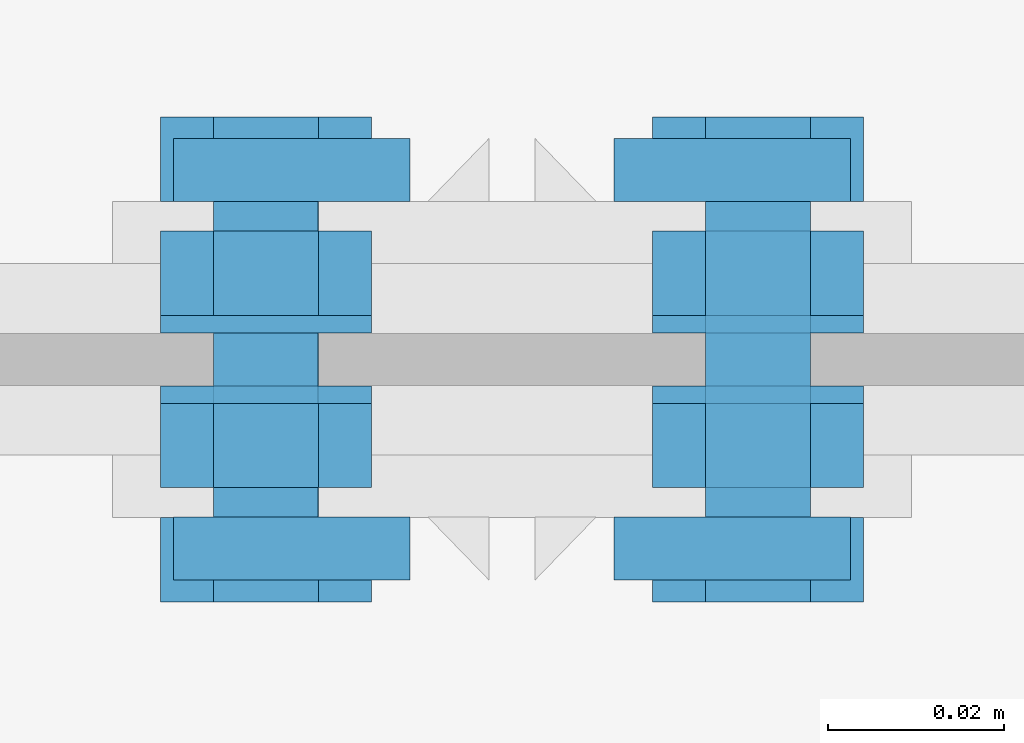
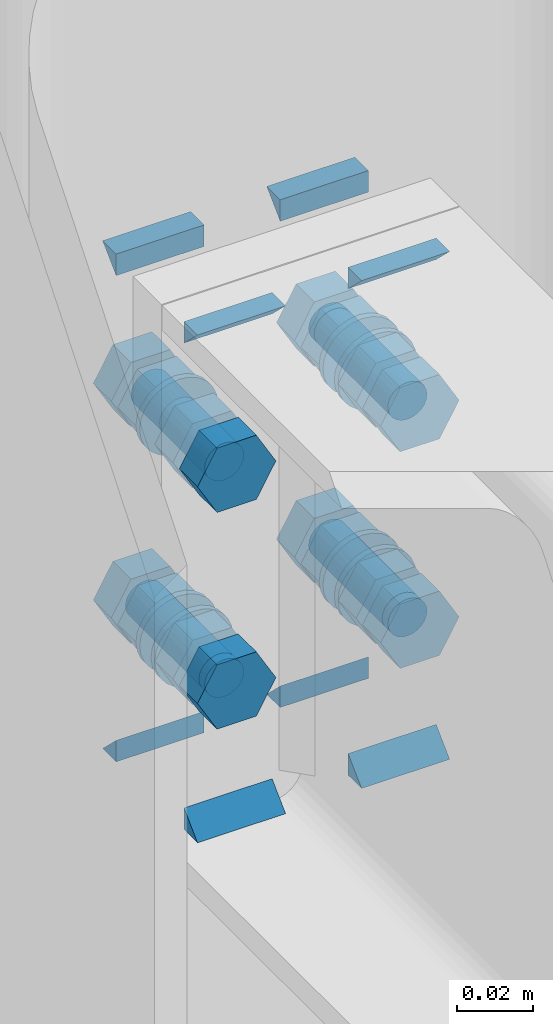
# One storey, part 119 of 251: 31 mechanical fasteners, 16 fasteners.
"""IFC4 building model written with IfcOpenShell, lengths in metres."""

from ifc_helpers import new_model, si_unit, frame, origin_with_axes, place, context, project, spatial, polyline, outline, extrude, type_object, element, save


model = new_model("IFC4")

# Units and contexts
model_context = context("Model", 3, precision=1e-05, world=origin_with_axes())
ifc_project = project(units=[si_unit("LENGTHUNIT", "METRE"), si_unit("AREAUNIT", "SQUARE_METRE"), si_unit("VOLUMEUNIT", "CUBIC_METRE"), si_unit("MASSUNIT", "GRAM", prefix="KILO"), si_unit("TIMEUNIT", "SECOND"), si_unit("PLANEANGLEUNIT", "RADIAN"), si_unit("SOLIDANGLEUNIT", "STERADIAN"), si_unit("THERMODYNAMICTEMPERATUREUNIT", "DEGREE_CELSIUS")], contexts=[model_context])

# Site, building, storey
placement_1 = place(None, origin_with_axes())
site = spatial("IfcSite", under=ifc_project, at=placement_1, Name="Italia", CompositionType="ELEMENT")
building = spatial("IfcBuilding", under=site, at=placement_1, Name="Deposito", CompositionType="ELEMENT")
storey = spatial("IfcBuildingStorey", under=building, at=placement_1, Name="Storey 0", CompositionType="ELEMENT", Elevation=0.0)

# Fasteners
fastener_type_1 = type_object("IfcFastenerType", Name="Collegamento -071_-070", PredefinedType="WELD")
placement_2 = place(placement_1, origin_with_axes())
fastener_1_placement = place(placement_2, origin_with_axes())
element("IfcFastener", 1, at=fastener_1_placement, inside=storey, type_object=fastener_type_1, Name="Collegamento -071_-070", context=model_context, shape_type="SweptSolid", body=[
    extrude(outline(polyline([(0.0, 0.0), (-0.00717354, 0.00695801), (0.0, 0.00695801), (0.0, 0.0)])), frame((6.01145, 9.98205, 6.89527), z_axis=(1.0, 0.0, 0.0), x_axis=(0.0, 1.0, 0.0)), (0.0, 0.0, 1.0), 0.0269499),
])
fastener_type_2 = type_object("IfcFastenerType", Name="Collegamento -071_-070", PredefinedType="WELD")
fastener_2_placement = place(placement_2, origin_with_axes())
element("IfcFastener", 2, at=fastener_2_placement, inside=storey, type_object=fastener_type_2, Name="Collegamento -071_-070", context=model_context, shape_type="SweptSolid", body=[
    extrude(outline(polyline([(0.0, 0.0), (0.00717354, -0.00695801), (0.0, -0.00695801), (0.0, 0.0)])), frame((6.0384, 9.98205, 6.74509), z_axis=(-1.0, 0.0, 0.0), x_axis=(0.0, -1.0, 0.0)), (0.0, 0.0, 1.0), 0.0269499),
])
fastener_type_3 = type_object("IfcFastenerType", Name="Collegamento -071_-070", PredefinedType="WELD")
fastener_3_placement = place(placement_2, origin_with_axes())
element("IfcFastener", 3, at=fastener_3_placement, inside=storey, type_object=fastener_type_3, Name="Collegamento -071_-070", context=model_context, shape_type="SweptSolid", body=[
    extrude(outline(polyline([(0.0, 0.0), (0.00717354, -0.00695801), (0.0, -0.00695801), (0.0, 0.0)])), frame((6.08855, 9.98205, 6.74509), z_axis=(-1.0, 0.0, 0.0), x_axis=(0.0, -1.0, 0.0)), (0.0, 0.0, 1.0), 0.0269499),
])
fastener_type_4 = type_object("IfcFastenerType", Name="Collegamento -071_-070", PredefinedType="WELD")
fastener_4_placement = place(placement_2, origin_with_axes())
element("IfcFastener", 4, at=fastener_4_placement, inside=storey, type_object=fastener_type_4, Name="Collegamento -071_-070", context=model_context, shape_type="SweptSolid", body=[
    extrude(outline(polyline([(0.0, 0.0), (-0.00717354, 0.00695801), (0.0, 0.00695801), (0.0, 0.0)])), frame((6.0616, 9.98205, 6.89527), z_axis=(1.0, 0.0, 0.0), x_axis=(0.0, 1.0, 0.0)), (0.0, 0.0, 1.0), 0.0269499),
])
fastener_type_5 = type_object("IfcFastenerType", Name="Collegamento -071_-070", PredefinedType="WELD")
fastener_5_placement = place(placement_2, origin_with_axes())
element("IfcFastener", 5, at=fastener_5_placement, inside=storey, type_object=fastener_type_5, Name="Collegamento -071_-070", context=model_context, shape_type="SweptSolid", body=[
    extrude(outline(polyline([(0.0, 0.0), (-0.00717354, 0.00695801), (0.0, 0.00695801), (0.0, 0.0)])), frame((6.01145, 9.98205, 6.89527), z_axis=(1.0, 0.0, 0.0), x_axis=(0.0, 1.0, 0.0)), (0.0, 0.0, 1.0), 0.0269499),
])
fastener_type_6 = type_object("IfcFastenerType", Name="Collegamento -071_-070", PredefinedType="WELD")
fastener_6_placement = place(placement_2, origin_with_axes())
element("IfcFastener", 6, at=fastener_6_placement, inside=storey, type_object=fastener_type_6, Name="Collegamento -071_-070", context=model_context, shape_type="SweptSolid", body=[
    extrude(outline(polyline([(0.0, 0.0), (0.00717354, -0.00695801), (0.0, -0.00695801), (0.0, 0.0)])), frame((6.0384, 9.98205, 6.74509), z_axis=(-1.0, 0.0, 0.0), x_axis=(0.0, -1.0, 0.0)), (0.0, 0.0, 1.0), 0.0269499),
])
fastener_type_7 = type_object("IfcFastenerType", Name="Collegamento -071_-070", PredefinedType="WELD")
fastener_7_placement = place(placement_2, origin_with_axes())
element("IfcFastener", 7, at=fastener_7_placement, inside=storey, type_object=fastener_type_7, Name="Collegamento -071_-070", context=model_context, shape_type="SweptSolid", body=[
    extrude(outline(polyline([(0.0, 0.0), (0.00717354, -0.00695801), (0.0, -0.00695801), (0.0, 0.0)])), frame((6.08855, 9.98205, 6.74509), z_axis=(-1.0, 0.0, 0.0), x_axis=(0.0, -1.0, 0.0)), (0.0, 0.0, 1.0), 0.0269499),
])
fastener_type_8 = type_object("IfcFastenerType", Name="Collegamento -071_-070", PredefinedType="WELD")
fastener_8_placement = place(placement_2, origin_with_axes())
element("IfcFastener", 8, at=fastener_8_placement, inside=storey, type_object=fastener_type_8, Name="Collegamento -071_-070", context=model_context, shape_type="SweptSolid", body=[
    extrude(outline(polyline([(0.0, 0.0), (-0.00717354, 0.00695801), (0.0, 0.00695801), (0.0, 0.0)])), frame((6.0616, 9.98205, 6.89527), z_axis=(1.0, 0.0, 0.0), x_axis=(0.0, 1.0, 0.0)), (0.0, 0.0, 1.0), 0.0269499),
])

# Mechanical fasteners
mechanical_fastener_type_1 = type_object("IfcMechanicalFastenerType", Name="Collegamento -071_-070", PredefinedType="BOLT")
mechanical_fastener_1_placement = place(placement_2, origin_with_axes())
element("IfcMechanicalFastener", 9, at=mechanical_fastener_1_placement, inside=storey, type_object=mechanical_fastener_type_1, Name="Collegamento -071_-070", NominalDiameter=0.0119999, context=model_context, shape_type="SweptSolid", body=[
    extrude(outline(polyline([(0.0, 0.0), (-0.0120001, 0.0), (-0.0180001, 0.0103927), (-0.0120001, 0.0207849), (0.0, 0.0207849), (0.00600004, 0.0103927), (0.0, 0.0)])), frame((6.028, 9.982, 6.77479), z_axis=(0.0, -1.0, 0.0), x_axis=(1.0, 0.0, 0.0)), (0.0, 0.0, 1.0), 0.00959969),
])
mechanical_fastener_type_2 = type_object("IfcMechanicalFastenerType", Name="Collegamento -071_-070", PredefinedType="BOLT")
mechanical_fastener_2_placement = place(placement_2, origin_with_axes())
element("IfcMechanicalFastener", 10, at=mechanical_fastener_2_placement, inside=storey, type_object=mechanical_fastener_type_2, Name="Collegamento -071_-070", NominalDiameter=0.012, context=model_context, shape_type="SweptSolid", body=[
    extrude(outline(polyline([(0.0, 0.0), (-0.000204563, -0.00155306), (-0.000803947, -0.00299978), (-0.00175762, -0.00424242), (-0.00300026, -0.00519609), (-0.00444698, -0.00579548), (-0.00600004, -0.00600004), (-0.0075531, -0.00579548), (-0.00899982, -0.00519609), (-0.0102425, -0.00424242), (-0.0111961, -0.00299978), (-0.0117955, -0.00155306), (-0.0120001, 0.0), (-0.0117955, 0.00155306), (-0.0111961, 0.00299978), (-0.0102425, 0.00424242), (-0.00899982, 0.00519609), (-0.0075531, 0.00579548), (-0.00600004, 0.00600004), (-0.00444698, 0.00579548), (-0.00300026, 0.00519609), (-0.00175762, 0.00424242), (-0.000803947, 0.00299978), (-0.000204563, 0.00155306), (0.0, 0.0)])), frame((6.028, 10.021, 6.78518), z_axis=(0.0, -1.0, 0.0), x_axis=(1.0, 0.0, 0.0)), (0.0, 0.0, 1.0), 0.0390005),
])
mechanical_fastener_type_3 = type_object("IfcMechanicalFastenerType", Name="Collegamento -071_-070", PredefinedType="BOLT")
mechanical_fastener_3_placement = place(placement_2, origin_with_axes())
element("IfcMechanicalFastener", 11, at=mechanical_fastener_3_placement, inside=storey, type_object=mechanical_fastener_type_3, Name="Collegamento -071_-070", NominalDiameter=0.0119999, context=model_context, shape_type="SweptSolid", body=[
    extrude(outline(polyline([(0.0, 0.0), (-0.0120001, 0.0), (-0.0180001, 0.0103927), (-0.0120001, 0.0207849), (0.0, 0.0207849), (0.00600004, 0.0103927), (0.0, 0.0)])), frame((6.028, 10.0146, 6.77479), z_axis=(0.0, -1.0, 0.0), x_axis=(1.0, 0.0, 0.0)), (0.0, 0.0, 1.0), 0.00959969),
])
mechanical_fastener_type_4 = type_object("IfcMechanicalFastenerType", Name="Collegamento -071_-070", PredefinedType="BOLT")
mechanical_fastener_4_placement = place(placement_2, origin_with_axes())
element("IfcMechanicalFastener", 12, at=mechanical_fastener_4_placement, inside=storey, type_object=mechanical_fastener_type_4, Name="Collegamento -071_-070", NominalDiameter=0.024, context=model_context, shape_type="SweptSolid", body=[
    extrude(outline(polyline([(0.0, 0.0), (-0.000409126, -0.00310564), (-0.00160789, -0.00600004), (-0.00351477, -0.00848532), (-0.00600004, -0.0103922), (-0.00889444, -0.011591), (-0.0120001, -0.0120001), (-0.0151057, -0.011591), (-0.0180001, -0.0103922), (-0.0204854, -0.00848532), (-0.0223923, -0.00600004), (-0.023591, -0.00310564), (-0.0240002, 0.0), (-0.023591, 0.00310564), (-0.0223923, 0.00600004), (-0.0204854, 0.00848532), (-0.0180001, 0.0103922), (-0.0151057, 0.011591), (-0.0120001, 0.0120001), (-0.00889444, 0.011591), (-0.00600004, 0.0103922), (-0.00351477, 0.00848532), (-0.00160789, 0.00600004), (-0.000409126, 0.00310564), (0.0, 0.0)])), frame((6.034, 10.005, 6.78518), z_axis=(0.0, -1.0, 0.0), x_axis=(1.0, 0.0, 0.0)), (0.0, 0.0, 1.0), 0.00200081),
])
mechanical_fastener_type_5 = type_object("IfcMechanicalFastenerType", Name="Collegamento -071_-070", PredefinedType="BOLT")
mechanical_fastener_5_placement = place(placement_2, origin_with_axes())
element("IfcMechanicalFastener", 13, at=mechanical_fastener_5_placement, inside=storey, type_object=mechanical_fastener_type_5, Name="Collegamento -071_-070", NominalDiameter=0.0119999, context=model_context, shape_type="SweptSolid", body=[
    extrude(outline(polyline([(0.0, 0.0), (-0.0120001, 0.0), (-0.0180001, 0.0103927), (-0.0120001, 0.0207849), (0.0, 0.0207849), (0.00600004, 0.0103927), (0.0, 0.0)])), frame((6.084, 9.982, 6.77479), z_axis=(0.0, -1.0, 0.0), x_axis=(1.0, 0.0, 0.0)), (0.0, 0.0, 1.0), 0.00959969),
])
mechanical_fastener_type_6 = type_object("IfcMechanicalFastenerType", Name="Collegamento -071_-070", PredefinedType="BOLT")
mechanical_fastener_6_placement = place(placement_2, origin_with_axes())
element("IfcMechanicalFastener", 14, at=mechanical_fastener_6_placement, inside=storey, type_object=mechanical_fastener_type_6, Name="Collegamento -071_-070", NominalDiameter=0.012, context=model_context, shape_type="SweptSolid", body=[
    extrude(outline(polyline([(0.0, 0.0), (-0.000204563, -0.00155306), (-0.000803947, -0.00299978), (-0.00175762, -0.00424242), (-0.00300026, -0.00519609), (-0.00444698, -0.00579548), (-0.00600004, -0.00600004), (-0.0075531, -0.00579548), (-0.00899982, -0.00519609), (-0.0102425, -0.00424242), (-0.0111961, -0.00299978), (-0.0117955, -0.00155306), (-0.0120001, 0.0), (-0.0117955, 0.00155306), (-0.0111961, 0.00299978), (-0.0102425, 0.00424242), (-0.00899982, 0.00519609), (-0.0075531, 0.00579548), (-0.00600004, 0.00600004), (-0.00444698, 0.00579548), (-0.00300026, 0.00519609), (-0.00175762, 0.00424242), (-0.000803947, 0.00299978), (-0.000204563, 0.00155306), (0.0, 0.0)])), frame((6.084, 10.021, 6.78518), z_axis=(0.0, -1.0, 0.0), x_axis=(1.0, 0.0, 0.0)), (0.0, 0.0, 1.0), 0.0390005),
])
mechanical_fastener_type_7 = type_object("IfcMechanicalFastenerType", Name="Collegamento -071_-070", PredefinedType="BOLT")
mechanical_fastener_7_placement = place(placement_2, origin_with_axes())
element("IfcMechanicalFastener", 15, at=mechanical_fastener_7_placement, inside=storey, type_object=mechanical_fastener_type_7, Name="Collegamento -071_-070", NominalDiameter=0.0119999, context=model_context, shape_type="SweptSolid", body=[
    extrude(outline(polyline([(0.0, 0.0), (-0.0120001, 0.0), (-0.0180001, 0.0103927), (-0.0120001, 0.0207849), (0.0, 0.0207849), (0.00600004, 0.0103927), (0.0, 0.0)])), frame((6.084, 10.0146, 6.77479), z_axis=(0.0, -1.0, 0.0), x_axis=(1.0, 0.0, 0.0)), (0.0, 0.0, 1.0), 0.00959969),
])
mechanical_fastener_type_8 = type_object("IfcMechanicalFastenerType", Name="Collegamento -071_-070", PredefinedType="BOLT")
mechanical_fastener_8_placement = place(placement_2, origin_with_axes())
element("IfcMechanicalFastener", 16, at=mechanical_fastener_8_placement, inside=storey, type_object=mechanical_fastener_type_8, Name="Collegamento -071_-070", NominalDiameter=0.024, context=model_context, shape_type="SweptSolid", body=[
    extrude(outline(polyline([(0.0, 0.0), (-0.000409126, -0.00310564), (-0.00160789, -0.00600004), (-0.00351477, -0.00848532), (-0.00600004, -0.0103922), (-0.00889444, -0.011591), (-0.0120001, -0.0120001), (-0.0151057, -0.011591), (-0.0180001, -0.0103922), (-0.0204854, -0.00848532), (-0.0223923, -0.00600004), (-0.023591, -0.00310564), (-0.0240002, 0.0), (-0.023591, 0.00310564), (-0.0223923, 0.00600004), (-0.0204854, 0.00848532), (-0.0180001, 0.0103922), (-0.0151057, 0.011591), (-0.0120001, 0.0120001), (-0.00889444, 0.011591), (-0.00600004, 0.0103922), (-0.00351477, 0.00848532), (-0.00160789, 0.00600004), (-0.000409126, 0.00310564), (0.0, 0.0)])), frame((6.09, 10.005, 6.78518), z_axis=(0.0, -1.0, 0.0), x_axis=(1.0, 0.0, 0.0)), (0.0, 0.0, 1.0), 0.00200081),
])
mechanical_fastener_type_9 = type_object("IfcMechanicalFastenerType", Name="Collegamento -071_-070", PredefinedType="BOLT")
mechanical_fastener_9_placement = place(placement_2, origin_with_axes())
element("IfcMechanicalFastener", 17, at=mechanical_fastener_9_placement, inside=storey, type_object=mechanical_fastener_type_9, Name="Collegamento -071_-070", NominalDiameter=0.0119999, context=model_context, shape_type="SweptSolid", body=[
    extrude(outline(polyline([(0.0, 0.0), (-0.0120001, 0.0), (-0.0180001, 0.0103922), (-0.0120001, 0.0207849), (0.0, 0.0207849), (0.00600004, 0.0103922), (0.0, 0.0)])), frame((6.028, 9.982, 6.84479), z_axis=(0.0, -1.0, 0.0), x_axis=(1.0, 0.0, 0.0)), (0.0, 0.0, 1.0), 0.00959969),
])
mechanical_fastener_type_10 = type_object("IfcMechanicalFastenerType", Name="Collegamento -071_-070", PredefinedType="BOLT")
mechanical_fastener_10_placement = place(placement_2, origin_with_axes())
element("IfcMechanicalFastener", 18, at=mechanical_fastener_10_placement, inside=storey, type_object=mechanical_fastener_type_10, Name="Collegamento -071_-070", NominalDiameter=0.012, context=model_context, shape_type="SweptSolid", body=[
    extrude(outline(polyline([(0.0, 0.0), (-0.000204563, -0.00155306), (-0.000803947, -0.00299978), (-0.00175762, -0.00424242), (-0.00300026, -0.00519609), (-0.00444698, -0.00579548), (-0.00600004, -0.00600004), (-0.0075531, -0.00579548), (-0.00899982, -0.00519609), (-0.0102425, -0.00424242), (-0.0111961, -0.00299978), (-0.0117955, -0.00155306), (-0.0120001, 0.0), (-0.0117955, 0.00155306), (-0.0111961, 0.00299978), (-0.0102425, 0.00424242), (-0.00899982, 0.00519609), (-0.0075531, 0.00579548), (-0.00600004, 0.00600004), (-0.00444698, 0.00579548), (-0.00300026, 0.00519609), (-0.00175762, 0.00424242), (-0.000803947, 0.00299978), (-0.000204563, 0.00155306), (0.0, 0.0)])), frame((6.028, 10.021, 6.85518), z_axis=(0.0, -1.0, 0.0), x_axis=(1.0, 0.0, 0.0)), (0.0, 0.0, 1.0), 0.0390005),
])
mechanical_fastener_type_11 = type_object("IfcMechanicalFastenerType", Name="Collegamento -071_-070", PredefinedType="BOLT")
mechanical_fastener_11_placement = place(placement_2, origin_with_axes())
element("IfcMechanicalFastener", 19, at=mechanical_fastener_11_placement, inside=storey, type_object=mechanical_fastener_type_11, Name="Collegamento -071_-070", NominalDiameter=0.0119999, context=model_context, shape_type="SweptSolid", body=[
    extrude(outline(polyline([(0.0, 0.0), (-0.0120001, 0.0), (-0.0180001, 0.0103922), (-0.0120001, 0.0207849), (0.0, 0.0207849), (0.00600004, 0.0103922), (0.0, 0.0)])), frame((6.028, 10.0146, 6.84479), z_axis=(0.0, -1.0, 0.0), x_axis=(1.0, 0.0, 0.0)), (0.0, 0.0, 1.0), 0.00959969),
])
mechanical_fastener_type_12 = type_object("IfcMechanicalFastenerType", Name="Collegamento -071_-070", PredefinedType="BOLT")
mechanical_fastener_12_placement = place(placement_2, origin_with_axes())
element("IfcMechanicalFastener", 20, at=mechanical_fastener_12_placement, inside=storey, type_object=mechanical_fastener_type_12, Name="Collegamento -071_-070", NominalDiameter=0.024, context=model_context, shape_type="SweptSolid", body=[
    extrude(outline(polyline([(0.0, 0.0), (-0.000409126, -0.00310564), (-0.00160789, -0.00600004), (-0.00351477, -0.00848532), (-0.00600004, -0.0103922), (-0.00889444, -0.011591), (-0.0120001, -0.0120001), (-0.0151057, -0.011591), (-0.0180001, -0.0103922), (-0.0204854, -0.00848532), (-0.0223923, -0.00600004), (-0.023591, -0.00310564), (-0.0240002, 0.0), (-0.023591, 0.00310564), (-0.0223923, 0.00600004), (-0.0204854, 0.00848532), (-0.0180001, 0.0103922), (-0.0151057, 0.011591), (-0.0120001, 0.0120001), (-0.00889444, 0.011591), (-0.00600004, 0.0103922), (-0.00351477, 0.00848532), (-0.00160789, 0.00600004), (-0.000409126, 0.00310564), (0.0, 0.0)])), frame((6.034, 10.005, 6.85518), z_axis=(0.0, -1.0, 0.0), x_axis=(1.0, 0.0, 0.0)), (0.0, 0.0, 1.0), 0.00200081),
])
mechanical_fastener_type_13 = type_object("IfcMechanicalFastenerType", Name="Collegamento -071_-070", PredefinedType="BOLT")
mechanical_fastener_13_placement = place(placement_2, origin_with_axes())
element("IfcMechanicalFastener", 21, at=mechanical_fastener_13_placement, inside=storey, type_object=mechanical_fastener_type_13, Name="Collegamento -071_-070", NominalDiameter=0.0119999, context=model_context, shape_type="SweptSolid", body=[
    extrude(outline(polyline([(0.0, 0.0), (-0.0120001, 0.0), (-0.0180001, 0.0103922), (-0.0120001, 0.0207849), (0.0, 0.0207849), (0.00600004, 0.0103922), (0.0, 0.0)])), frame((6.084, 9.982, 6.84479), z_axis=(0.0, -1.0, 0.0), x_axis=(1.0, 0.0, 0.0)), (0.0, 0.0, 1.0), 0.00959969),
])
mechanical_fastener_type_14 = type_object("IfcMechanicalFastenerType", Name="Collegamento -071_-070", PredefinedType="BOLT")
mechanical_fastener_14_placement = place(placement_2, origin_with_axes())
element("IfcMechanicalFastener", 22, at=mechanical_fastener_14_placement, inside=storey, type_object=mechanical_fastener_type_14, Name="Collegamento -071_-070", NominalDiameter=0.012, context=model_context, shape_type="SweptSolid", body=[
    extrude(outline(polyline([(0.0, 0.0), (-0.000204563, -0.00155306), (-0.000803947, -0.00299978), (-0.00175762, -0.00424242), (-0.00300026, -0.00519609), (-0.00444698, -0.00579548), (-0.00600004, -0.00600004), (-0.0075531, -0.00579548), (-0.00899982, -0.00519609), (-0.0102425, -0.00424242), (-0.0111961, -0.00299978), (-0.0117955, -0.00155306), (-0.0120001, 0.0), (-0.0117955, 0.00155306), (-0.0111961, 0.00299978), (-0.0102425, 0.00424242), (-0.00899982, 0.00519609), (-0.0075531, 0.00579548), (-0.00600004, 0.00600004), (-0.00444698, 0.00579548), (-0.00300026, 0.00519609), (-0.00175762, 0.00424242), (-0.000803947, 0.00299978), (-0.000204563, 0.00155306), (0.0, 0.0)])), frame((6.084, 10.021, 6.85518), z_axis=(0.0, -1.0, 0.0), x_axis=(1.0, 0.0, 0.0)), (0.0, 0.0, 1.0), 0.0390005),
])
mechanical_fastener_type_15 = type_object("IfcMechanicalFastenerType", Name="Collegamento -071_-070", PredefinedType="BOLT")
mechanical_fastener_15_placement = place(placement_2, origin_with_axes())
element("IfcMechanicalFastener", 23, at=mechanical_fastener_15_placement, inside=storey, type_object=mechanical_fastener_type_15, Name="Collegamento -071_-070", NominalDiameter=0.0119999, context=model_context, shape_type="SweptSolid", body=[
    extrude(outline(polyline([(0.0, 0.0), (-0.0120001, 0.0), (-0.0180001, 0.0103922), (-0.0120001, 0.0207849), (0.0, 0.0207849), (0.00600004, 0.0103922), (0.0, 0.0)])), frame((6.084, 10.0146, 6.84479), z_axis=(0.0, -1.0, 0.0), x_axis=(1.0, 0.0, 0.0)), (0.0, 0.0, 1.0), 0.00959969),
])
mechanical_fastener_type_16 = type_object("IfcMechanicalFastenerType", Name="Collegamento -071_-070", PredefinedType="BOLT")
mechanical_fastener_16_placement = place(placement_2, origin_with_axes())
element("IfcMechanicalFastener", 24, at=mechanical_fastener_16_placement, inside=storey, type_object=mechanical_fastener_type_16, Name="Collegamento -071_-070", NominalDiameter=0.024, context=model_context, shape_type="SweptSolid", body=[
    extrude(outline(polyline([(0.0, 0.0), (-0.000409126, -0.00310564), (-0.00160789, -0.00600004), (-0.00351477, -0.00848532), (-0.00600004, -0.0103922), (-0.00889444, -0.011591), (-0.0120001, -0.0120001), (-0.0151057, -0.011591), (-0.0180001, -0.0103922), (-0.0204854, -0.00848532), (-0.0223923, -0.00600004), (-0.023591, -0.00310564), (-0.0240002, 0.0), (-0.023591, 0.00310564), (-0.0223923, 0.00600004), (-0.0204854, 0.00848532), (-0.0180001, 0.0103922), (-0.0151057, 0.011591), (-0.0120001, 0.0120001), (-0.00889444, 0.011591), (-0.00600004, 0.0103922), (-0.00351477, 0.00848532), (-0.00160789, 0.00600004), (-0.000409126, 0.00310564), (0.0, 0.0)])), frame((6.09, 10.005, 6.85518), z_axis=(0.0, -1.0, 0.0), x_axis=(1.0, 0.0, 0.0)), (0.0, 0.0, 1.0), 0.00200081),
])

# Fasteners
fastener_type_9 = type_object("IfcFastenerType", Name="Collegamento -071_-072", PredefinedType="WELD")
fastener_9_placement = place(placement_2, origin_with_axes())
element("IfcFastener", 25, at=fastener_9_placement, inside=storey, type_object=fastener_type_9, Name="Collegamento -071_-072", context=model_context, shape_type="SweptSolid", body=[
    extrude(outline(polyline([(0.0, 0.0), (-0.00717354, 0.00695801), (0.0, 0.00695801), (0.0, 0.0)])), frame((6.0384, 10.018, 6.89527), z_axis=(-1.0, 0.0, 0.0), x_axis=(0.0, -1.0, 0.0)), (0.0, 0.0, 1.0), 0.0269499),
])
fastener_type_10 = type_object("IfcFastenerType", Name="Collegamento -071_-072", PredefinedType="WELD")
fastener_10_placement = place(placement_2, origin_with_axes())
element("IfcFastener", 26, at=fastener_10_placement, inside=storey, type_object=fastener_type_10, Name="Collegamento -071_-072", context=model_context, shape_type="SweptSolid", body=[
    extrude(outline(polyline([(0.0, 0.0), (0.00717354, -0.00695801), (0.0, -0.00695801), (0.0, 0.0)])), frame((6.01145, 10.018, 6.74509), z_axis=(1.0, 0.0, 0.0), x_axis=(0.0, 1.0, 0.0)), (0.0, 0.0, 1.0), 0.0269499),
])
fastener_type_11 = type_object("IfcFastenerType", Name="Collegamento -071_-072", PredefinedType="WELD")
fastener_11_placement = place(placement_2, origin_with_axes())
element("IfcFastener", 27, at=fastener_11_placement, inside=storey, type_object=fastener_type_11, Name="Collegamento -071_-072", context=model_context, shape_type="SweptSolid", body=[
    extrude(outline(polyline([(0.0, 0.0), (0.00717354, -0.00695801), (0.0, -0.00695801), (0.0, 0.0)])), frame((6.0616, 10.018, 6.74509), z_axis=(1.0, 0.0, 0.0), x_axis=(0.0, 1.0, 0.0)), (0.0, 0.0, 1.0), 0.0269499),
])
fastener_type_12 = type_object("IfcFastenerType", Name="Collegamento -071_-072", PredefinedType="WELD")
fastener_12_placement = place(placement_2, origin_with_axes())
element("IfcFastener", 28, at=fastener_12_placement, inside=storey, type_object=fastener_type_12, Name="Collegamento -071_-072", context=model_context, shape_type="SweptSolid", body=[
    extrude(outline(polyline([(0.0, 0.0), (-0.00717354, 0.00695801), (0.0, 0.00695801), (0.0, 0.0)])), frame((6.08855, 10.018, 6.89527), z_axis=(-1.0, 0.0, 0.0), x_axis=(0.0, -1.0, 0.0)), (0.0, 0.0, 1.0), 0.0269499),
])
fastener_type_13 = type_object("IfcFastenerType", Name="Collegamento -071_-072", PredefinedType="WELD")
fastener_13_placement = place(placement_2, origin_with_axes())
element("IfcFastener", 29, at=fastener_13_placement, inside=storey, type_object=fastener_type_13, Name="Collegamento -071_-072", context=model_context, shape_type="SweptSolid", body=[
    extrude(outline(polyline([(0.0, 0.0), (-0.00717354, 0.00695801), (0.0, 0.00695801), (0.0, 0.0)])), frame((6.0384, 10.018, 6.89527), z_axis=(-1.0, 0.0, 0.0), x_axis=(0.0, -1.0, 0.0)), (0.0, 0.0, 1.0), 0.0269499),
])
fastener_type_14 = type_object("IfcFastenerType", Name="Collegamento -071_-072", PredefinedType="WELD")
fastener_14_placement = place(placement_2, origin_with_axes())
element("IfcFastener", 30, at=fastener_14_placement, inside=storey, type_object=fastener_type_14, Name="Collegamento -071_-072", context=model_context, shape_type="SweptSolid", body=[
    extrude(outline(polyline([(0.0, 0.0), (0.00717354, -0.00695801), (0.0, -0.00695801), (0.0, 0.0)])), frame((6.01145, 10.018, 6.74509), z_axis=(1.0, 0.0, 0.0), x_axis=(0.0, 1.0, 0.0)), (0.0, 0.0, 1.0), 0.0269499),
])
fastener_type_15 = type_object("IfcFastenerType", Name="Collegamento -071_-072", PredefinedType="WELD")
fastener_15_placement = place(placement_2, origin_with_axes())
element("IfcFastener", 31, at=fastener_15_placement, inside=storey, type_object=fastener_type_15, Name="Collegamento -071_-072", context=model_context, shape_type="SweptSolid", body=[
    extrude(outline(polyline([(0.0, 0.0), (0.00717354, -0.00695801), (0.0, -0.00695801), (0.0, 0.0)])), frame((6.0616, 10.018, 6.74509), z_axis=(1.0, 0.0, 0.0), x_axis=(0.0, 1.0, 0.0)), (0.0, 0.0, 1.0), 0.0269499),
])
fastener_type_16 = type_object("IfcFastenerType", Name="Collegamento -071_-072", PredefinedType="WELD")
fastener_16_placement = place(placement_2, origin_with_axes())
element("IfcFastener", 32, at=fastener_16_placement, inside=storey, type_object=fastener_type_16, Name="Collegamento -071_-072", context=model_context, shape_type="SweptSolid", body=[
    extrude(outline(polyline([(0.0, 0.0), (-0.00717354, 0.00695801), (0.0, 0.00695801), (0.0, 0.0)])), frame((6.08855, 10.018, 6.89527), z_axis=(-1.0, 0.0, 0.0), x_axis=(0.0, -1.0, 0.0)), (0.0, 0.0, 1.0), 0.0269499),
])

# Mechanical fasteners
mechanical_fastener_type_17 = type_object("IfcMechanicalFastenerType", Name="Collegamento -071_-072", PredefinedType="BOLT")
mechanical_fastener_17_placement = place(placement_2, origin_with_axes())
element("IfcMechanicalFastener", 33, at=mechanical_fastener_17_placement, inside=storey, type_object=mechanical_fastener_type_17, Name="Collegamento -071_-072", NominalDiameter=0.0119999, context=model_context, shape_type="SweptSolid", body=[
    extrude(outline(polyline([(0.0, 0.0), (-0.0120001, 0.0), (-0.0180001, 0.0103927), (-0.0120001, 0.0207849), (0.0, 0.0207849), (0.00600004, 0.0103927), (0.0, 0.0)])), frame((6.072, 10.018, 6.77479), z_axis=(0.0, 1.0, 0.0), x_axis=(-1.0, 0.0, 0.0)), (0.0, 0.0, 1.0), 0.00959969),
])
mechanical_fastener_type_18 = type_object("IfcMechanicalFastenerType", Name="Collegamento -071_-072", PredefinedType="BOLT")
mechanical_fastener_18_placement = place(placement_2, origin_with_axes())
element("IfcMechanicalFastener", 34, at=mechanical_fastener_18_placement, inside=storey, type_object=mechanical_fastener_type_18, Name="Collegamento -071_-072", NominalDiameter=0.012, context=model_context, shape_type="SweptSolid", body=[
    extrude(outline(polyline([(0.0, 0.0), (-0.000204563, -0.00155306), (-0.000803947, -0.00299978), (-0.00175762, -0.00424242), (-0.00300026, -0.00519609), (-0.00444698, -0.00579548), (-0.00600004, -0.00600004), (-0.0075531, -0.00579548), (-0.00899982, -0.00519609), (-0.0102425, -0.00424242), (-0.0111961, -0.00299978), (-0.0117955, -0.00155306), (-0.0120001, 0.0), (-0.0117955, 0.00155306), (-0.0111961, 0.00299978), (-0.0102425, 0.00424242), (-0.00899982, 0.00519609), (-0.0075531, 0.00579548), (-0.00600004, 0.00600004), (-0.00444698, 0.00579548), (-0.00300026, 0.00519609), (-0.00175762, 0.00424242), (-0.000803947, 0.00299978), (-0.000204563, 0.00155306), (0.0, 0.0)])), frame((6.072, 9.979, 6.78518), z_axis=(0.0, 1.0, 0.0), x_axis=(-1.0, 0.0, 0.0)), (0.0, 0.0, 1.0), 0.0390005),
])
mechanical_fastener_type_19 = type_object("IfcMechanicalFastenerType", Name="Collegamento -071_-072", PredefinedType="BOLT")
mechanical_fastener_19_placement = place(placement_2, origin_with_axes())
element("IfcMechanicalFastener", 35, at=mechanical_fastener_19_placement, inside=storey, type_object=mechanical_fastener_type_19, Name="Collegamento -071_-072", NominalDiameter=0.0119999, context=model_context, shape_type="SweptSolid", body=[
    extrude(outline(polyline([(0.0, 0.0), (-0.0120001, 0.0), (-0.0180001, 0.0103927), (-0.0120001, 0.0207849), (0.0, 0.0207849), (0.00600004, 0.0103927), (0.0, 0.0)])), frame((6.072, 9.9854, 6.77479), z_axis=(0.0, 1.0, 0.0), x_axis=(-1.0, 0.0, 0.0)), (0.0, 0.0, 1.0), 0.00959969),
])
mechanical_fastener_type_20 = type_object("IfcMechanicalFastenerType", Name="Collegamento -071_-072", PredefinedType="BOLT")
mechanical_fastener_20_placement = place(placement_2, origin_with_axes())
element("IfcMechanicalFastener", 36, at=mechanical_fastener_20_placement, inside=storey, type_object=mechanical_fastener_type_20, Name="Collegamento -071_-072", NominalDiameter=0.024, context=model_context, shape_type="SweptSolid", body=[
    extrude(outline(polyline([(0.0, 0.0), (-0.000409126, -0.00310564), (-0.00160789, -0.00600004), (-0.00351477, -0.00848532), (-0.00600004, -0.0103922), (-0.00889444, -0.011591), (-0.0120001, -0.0120001), (-0.0151057, -0.011591), (-0.0180001, -0.0103922), (-0.0204854, -0.00848532), (-0.0223923, -0.00600004), (-0.023591, -0.00310564), (-0.0240002, 0.0), (-0.023591, 0.00310564), (-0.0223923, 0.00600004), (-0.0204854, 0.00848532), (-0.0180001, 0.0103922), (-0.0151057, 0.011591), (-0.0120001, 0.0120001), (-0.00889444, 0.011591), (-0.00600004, 0.0103922), (-0.00351477, 0.00848532), (-0.00160789, 0.00600004), (-0.000409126, 0.00310564), (0.0, 0.0)])), frame((6.066, 9.995, 6.78518), z_axis=(0.0, 1.0, 0.0), x_axis=(-1.0, 0.0, 0.0)), (0.0, 0.0, 1.0), 0.00200081),
])
mechanical_fastener_type_21 = type_object("IfcMechanicalFastenerType", Name="Collegamento -071_-072", PredefinedType="BOLT")
mechanical_fastener_21_placement = place(placement_2, origin_with_axes())
element("IfcMechanicalFastener", 37, at=mechanical_fastener_21_placement, inside=storey, type_object=mechanical_fastener_type_21, Name="Collegamento -071_-072", NominalDiameter=0.0119999, context=model_context, shape_type="SweptSolid", body=[
    extrude(outline(polyline([(0.0, 0.0), (-0.0120001, 0.0), (-0.0180001, 0.0103927), (-0.0120001, 0.0207849), (0.0, 0.0207849), (0.00600004, 0.0103927), (0.0, 0.0)])), frame((6.016, 10.018, 6.77479), z_axis=(0.0, 1.0, 0.0), x_axis=(-1.0, 0.0, 0.0)), (0.0, 0.0, 1.0), 0.00959969),
])
mechanical_fastener_type_22 = type_object("IfcMechanicalFastenerType", Name="Collegamento -071_-072", PredefinedType="BOLT")
mechanical_fastener_22_placement = place(placement_2, origin_with_axes())
element("IfcMechanicalFastener", 38, at=mechanical_fastener_22_placement, inside=storey, type_object=mechanical_fastener_type_22, Name="Collegamento -071_-072", NominalDiameter=0.012, context=model_context, shape_type="SweptSolid", body=[
    extrude(outline(polyline([(0.0, 0.0), (-0.000204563, -0.00155306), (-0.000803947, -0.00299978), (-0.00175762, -0.00424242), (-0.00300026, -0.00519609), (-0.00444698, -0.00579548), (-0.00600004, -0.00600004), (-0.0075531, -0.00579548), (-0.00899982, -0.00519609), (-0.0102425, -0.00424242), (-0.0111961, -0.00299978), (-0.0117955, -0.00155306), (-0.0120001, 0.0), (-0.0117955, 0.00155306), (-0.0111961, 0.00299978), (-0.0102425, 0.00424242), (-0.00899982, 0.00519609), (-0.0075531, 0.00579548), (-0.00600004, 0.00600004), (-0.00444698, 0.00579548), (-0.00300026, 0.00519609), (-0.00175762, 0.00424242), (-0.000803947, 0.00299978), (-0.000204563, 0.00155306), (0.0, 0.0)])), frame((6.016, 9.979, 6.78518), z_axis=(0.0, 1.0, 0.0), x_axis=(-1.0, 0.0, 0.0)), (0.0, 0.0, 1.0), 0.0390005),
])
mechanical_fastener_type_23 = type_object("IfcMechanicalFastenerType", Name="Collegamento -071_-072", PredefinedType="BOLT")
mechanical_fastener_23_placement = place(placement_2, origin_with_axes())
element("IfcMechanicalFastener", 39, at=mechanical_fastener_23_placement, inside=storey, type_object=mechanical_fastener_type_23, Name="Collegamento -071_-072", NominalDiameter=0.0119999, context=model_context, shape_type="SweptSolid", body=[
    extrude(outline(polyline([(0.0, 0.0), (-0.0120001, 0.0), (-0.0180001, 0.0103927), (-0.0120001, 0.0207849), (0.0, 0.0207849), (0.00600004, 0.0103927), (0.0, 0.0)])), frame((6.016, 9.9854, 6.77479), z_axis=(0.0, 1.0, 0.0), x_axis=(-1.0, 0.0, 0.0)), (0.0, 0.0, 1.0), 0.00959969),
])
mechanical_fastener_type_24 = type_object("IfcMechanicalFastenerType", Name="Collegamento -071_-072", PredefinedType="BOLT")
mechanical_fastener_24_placement = place(placement_2, origin_with_axes())
element("IfcMechanicalFastener", 40, at=mechanical_fastener_24_placement, inside=storey, type_object=mechanical_fastener_type_24, Name="Collegamento -071_-072", NominalDiameter=0.024, context=model_context, shape_type="SweptSolid", body=[
    extrude(outline(polyline([(0.0, 0.0), (-0.000409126, -0.00310564), (-0.00160789, -0.00600004), (-0.00351477, -0.00848532), (-0.00600004, -0.0103922), (-0.00889444, -0.011591), (-0.0120001, -0.0120001), (-0.0151057, -0.011591), (-0.0180001, -0.0103922), (-0.0204854, -0.00848532), (-0.0223923, -0.00600004), (-0.023591, -0.00310564), (-0.0240002, 0.0), (-0.023591, 0.00310564), (-0.0223923, 0.00600004), (-0.0204854, 0.00848532), (-0.0180001, 0.0103922), (-0.0151057, 0.011591), (-0.0120001, 0.0120001), (-0.00889444, 0.011591), (-0.00600004, 0.0103922), (-0.00351477, 0.00848532), (-0.00160789, 0.00600004), (-0.000409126, 0.00310564), (0.0, 0.0)])), frame((6.01, 9.995, 6.78518), z_axis=(0.0, 1.0, 0.0), x_axis=(-1.0, 0.0, 0.0)), (0.0, 0.0, 1.0), 0.00200081),
])
mechanical_fastener_type_25 = type_object("IfcMechanicalFastenerType", Name="Collegamento -071_-072", PredefinedType="BOLT")
mechanical_fastener_25_placement = place(placement_2, origin_with_axes())
element("IfcMechanicalFastener", 41, at=mechanical_fastener_25_placement, inside=storey, type_object=mechanical_fastener_type_25, Name="Collegamento -071_-072", NominalDiameter=0.0119999, context=model_context, shape_type="SweptSolid", body=[
    extrude(outline(polyline([(0.0, 0.0), (-0.0120001, 0.0), (-0.0180001, 0.0103922), (-0.0120001, 0.0207849), (0.0, 0.0207849), (0.00600004, 0.0103922), (0.0, 0.0)])), frame((6.072, 10.018, 6.84479), z_axis=(0.0, 1.0, 0.0), x_axis=(-1.0, 0.0, 0.0)), (0.0, 0.0, 1.0), 0.00959969),
])
mechanical_fastener_type_26 = type_object("IfcMechanicalFastenerType", Name="Collegamento -071_-072", PredefinedType="BOLT")
mechanical_fastener_26_placement = place(placement_2, origin_with_axes())
element("IfcMechanicalFastener", 42, at=mechanical_fastener_26_placement, inside=storey, type_object=mechanical_fastener_type_26, Name="Collegamento -071_-072", NominalDiameter=0.012, context=model_context, shape_type="SweptSolid", body=[
    extrude(outline(polyline([(0.0, 0.0), (-0.000204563, -0.00155306), (-0.000803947, -0.00299978), (-0.00175762, -0.00424242), (-0.00300026, -0.00519609), (-0.00444698, -0.00579548), (-0.00600004, -0.00600004), (-0.0075531, -0.00579548), (-0.00899982, -0.00519609), (-0.0102425, -0.00424242), (-0.0111961, -0.00299978), (-0.0117955, -0.00155306), (-0.0120001, 0.0), (-0.0117955, 0.00155306), (-0.0111961, 0.00299978), (-0.0102425, 0.00424242), (-0.00899982, 0.00519609), (-0.0075531, 0.00579548), (-0.00600004, 0.00600004), (-0.00444698, 0.00579548), (-0.00300026, 0.00519609), (-0.00175762, 0.00424242), (-0.000803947, 0.00299978), (-0.000204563, 0.00155306), (0.0, 0.0)])), frame((6.072, 9.979, 6.85518), z_axis=(0.0, 1.0, 0.0), x_axis=(-1.0, 0.0, 0.0)), (0.0, 0.0, 1.0), 0.0390005),
])
mechanical_fastener_type_27 = type_object("IfcMechanicalFastenerType", Name="Collegamento -071_-072", PredefinedType="BOLT")
mechanical_fastener_27_placement = place(placement_2, origin_with_axes())
element("IfcMechanicalFastener", 43, at=mechanical_fastener_27_placement, inside=storey, type_object=mechanical_fastener_type_27, Name="Collegamento -071_-072", NominalDiameter=0.0119999, context=model_context, shape_type="SweptSolid", body=[
    extrude(outline(polyline([(0.0, 0.0), (-0.0120001, 0.0), (-0.0180001, 0.0103922), (-0.0120001, 0.0207849), (0.0, 0.0207849), (0.00600004, 0.0103922), (0.0, 0.0)])), frame((6.072, 9.9854, 6.84479), z_axis=(0.0, 1.0, 0.0), x_axis=(-1.0, 0.0, 0.0)), (0.0, 0.0, 1.0), 0.00959969),
])
mechanical_fastener_type_28 = type_object("IfcMechanicalFastenerType", Name="Collegamento -071_-072", PredefinedType="BOLT")
mechanical_fastener_28_placement = place(placement_2, origin_with_axes())
element("IfcMechanicalFastener", 44, at=mechanical_fastener_28_placement, inside=storey, type_object=mechanical_fastener_type_28, Name="Collegamento -071_-072", NominalDiameter=0.024, context=model_context, shape_type="SweptSolid", body=[
    extrude(outline(polyline([(0.0, 0.0), (-0.000409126, -0.00310564), (-0.00160789, -0.00600004), (-0.00351477, -0.00848532), (-0.00600004, -0.0103922), (-0.00889444, -0.011591), (-0.0120001, -0.0120001), (-0.0151057, -0.011591), (-0.0180001, -0.0103922), (-0.0204854, -0.00848532), (-0.0223923, -0.00600004), (-0.023591, -0.00310564), (-0.0240002, 0.0), (-0.023591, 0.00310564), (-0.0223923, 0.00600004), (-0.0204854, 0.00848532), (-0.0180001, 0.0103922), (-0.0151057, 0.011591), (-0.0120001, 0.0120001), (-0.00889444, 0.011591), (-0.00600004, 0.0103922), (-0.00351477, 0.00848532), (-0.00160789, 0.00600004), (-0.000409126, 0.00310564), (0.0, 0.0)])), frame((6.066, 9.995, 6.85518), z_axis=(0.0, 1.0, 0.0), x_axis=(-1.0, 0.0, 0.0)), (0.0, 0.0, 1.0), 0.00200081),
])
mechanical_fastener_type_29 = type_object("IfcMechanicalFastenerType", Name="Collegamento -071_-072", PredefinedType="BOLT")
mechanical_fastener_29_placement = place(placement_2, origin_with_axes())
element("IfcMechanicalFastener", 45, at=mechanical_fastener_29_placement, inside=storey, type_object=mechanical_fastener_type_29, Name="Collegamento -071_-072", NominalDiameter=0.0119999, context=model_context, shape_type="SweptSolid", body=[
    extrude(outline(polyline([(0.0, 0.0), (-0.0120001, 0.0), (-0.0180001, 0.0103922), (-0.0120001, 0.0207849), (0.0, 0.0207849), (0.00600004, 0.0103922), (0.0, 0.0)])), frame((6.016, 10.018, 6.84479), z_axis=(0.0, 1.0, 0.0), x_axis=(-1.0, 0.0, 0.0)), (0.0, 0.0, 1.0), 0.00959969),
])
mechanical_fastener_type_30 = type_object("IfcMechanicalFastenerType", Name="Collegamento -071_-072", PredefinedType="BOLT")
mechanical_fastener_30_placement = place(placement_2, origin_with_axes())
element("IfcMechanicalFastener", 46, at=mechanical_fastener_30_placement, inside=storey, type_object=mechanical_fastener_type_30, Name="Collegamento -071_-072", NominalDiameter=0.012, context=model_context, shape_type="SweptSolid", body=[
    extrude(outline(polyline([(0.0, 0.0), (-0.000204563, -0.00155306), (-0.000803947, -0.00299978), (-0.00175762, -0.00424242), (-0.00300026, -0.00519609), (-0.00444698, -0.00579548), (-0.00600004, -0.00600004), (-0.0075531, -0.00579548), (-0.00899982, -0.00519609), (-0.0102425, -0.00424242), (-0.0111961, -0.00299978), (-0.0117955, -0.00155306), (-0.0120001, 0.0), (-0.0117955, 0.00155306), (-0.0111961, 0.00299978), (-0.0102425, 0.00424242), (-0.00899982, 0.00519609), (-0.0075531, 0.00579548), (-0.00600004, 0.00600004), (-0.00444698, 0.00579548), (-0.00300026, 0.00519609), (-0.00175762, 0.00424242), (-0.000803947, 0.00299978), (-0.000204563, 0.00155306), (0.0, 0.0)])), frame((6.016, 9.979, 6.85518), z_axis=(0.0, 1.0, 0.0), x_axis=(-1.0, 0.0, 0.0)), (0.0, 0.0, 1.0), 0.0390005),
])
mechanical_fastener_type_31 = type_object("IfcMechanicalFastenerType", Name="Collegamento -071_-072", PredefinedType="BOLT")
mechanical_fastener_31_placement = place(placement_2, origin_with_axes())
element("IfcMechanicalFastener", 47, at=mechanical_fastener_31_placement, inside=storey, type_object=mechanical_fastener_type_31, Name="Collegamento -071_-072", NominalDiameter=0.0119999, context=model_context, shape_type="SweptSolid", body=[
    extrude(outline(polyline([(0.0, 0.0), (-0.0120001, 0.0), (-0.0180001, 0.0103922), (-0.0120001, 0.0207849), (0.0, 0.0207849), (0.00600004, 0.0103922), (0.0, 0.0)])), frame((6.016, 9.9854, 6.84479), z_axis=(0.0, 1.0, 0.0), x_axis=(-1.0, 0.0, 0.0)), (0.0, 0.0, 1.0), 0.00959969),
])

save(model, "model.ifc")
